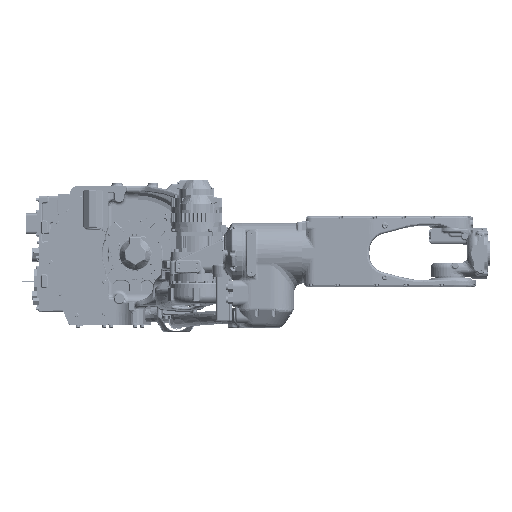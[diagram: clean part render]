
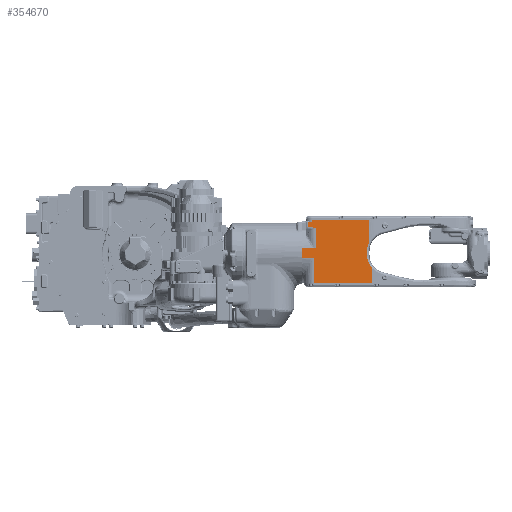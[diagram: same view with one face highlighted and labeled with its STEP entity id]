
A CAD part, top view. The second image highlights one B-rep face of the part: STEP entity #354670.
In plain terms, the highlighted planar face has unit normal (0, 0, 1).
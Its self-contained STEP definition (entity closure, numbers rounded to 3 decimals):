
#334132=CARTESIAN_POINT('',(597.458,-37.097,
1341.));
#334145=DIRECTION('',(-1.,0.,0.));
#334146=VECTOR('',#334145,143.611);
#334147=CARTESIAN_POINT('',(588.611,83.5,1341.));
#334148=LINE('',#334147,#334146);
#334149=DIRECTION('',(0.,1.,0.));
#334150=VECTOR('',#334149,58.998);
#334151=CARTESIAN_POINT('',(588.611,24.502,
1341.));
#334152=LINE('',#334151,#334150);
#334153=CARTESIAN_POINT('',(588.611,24.502,
1341.));
#334154=CARTESIAN_POINT('',(588.286,23.673,
1341.));
#334155=CARTESIAN_POINT('',(587.681,22.001,
1341.));
#334156=CARTESIAN_POINT('',(586.908,19.445,
1341.));
#334157=CARTESIAN_POINT('',(586.273,16.852,
1341.));
#334158=CARTESIAN_POINT('',(585.777,14.229,
1341.));
#334159=CARTESIAN_POINT('',(585.421,11.582,
1341.));
#334160=CARTESIAN_POINT('',(585.208,8.92,
1341.));
#334161=CARTESIAN_POINT('',(585.16,7.142,
1341.));
#334162=CARTESIAN_POINT('',(585.16,6.251,
1341.));
#334164=DIRECTION('',(0.,-1.,0.));
#334165=VECTOR('',#334164,10.512);
#334166=CARTESIAN_POINT('',(585.16,6.251,
1341.));
#334167=LINE('',#334166,#334165);
#334168=CARTESIAN_POINT('',(585.16,-4.261,
1341.));
#334169=CARTESIAN_POINT('',(585.16,-5.181,
1341.));
#334170=CARTESIAN_POINT('',(585.211,-7.017,
1341.));
#334171=CARTESIAN_POINT('',(585.439,-9.766,
1341.));
#334172=CARTESIAN_POINT('',(585.818,-12.497,1341.));
#334173=CARTESIAN_POINT('',(586.346,-15.203,1341.));
#334174=CARTESIAN_POINT('',(587.023,-17.875,1341.));
#334175=CARTESIAN_POINT('',(587.847,-20.506,1341.));
#334176=CARTESIAN_POINT('',(588.813,-23.088,1341.));
#334177=CARTESIAN_POINT('',(589.921,-25.612,1341.));
#334178=CARTESIAN_POINT('',(591.166,-28.072,1341.));
#334179=CARTESIAN_POINT('',(592.545,-30.459,1341.));
#334180=CARTESIAN_POINT('',(594.053,-32.766,
1341.));
#334181=CARTESIAN_POINT('',(595.686,-34.987,
1341.));
#334182=CARTESIAN_POINT('',(596.854,-36.404,
1341.));
#334183=CARTESIAN_POINT('',(597.458,-37.097,
1341.));
#334185=DIRECTION('',(0.,-1.,0.));
#334186=VECTOR('',#334185,36.403);
#334187=CARTESIAN_POINT('',(597.458,-37.097,
1341.));
#334188=LINE('',#334187,#334186);
#334189=DIRECTION('',(-1.,0.,0.));
#334190=VECTOR('',#334189,146.458);
#334191=CARTESIAN_POINT('',(597.458,-73.5,1341.));
#334192=LINE('',#334191,#334190);
#334193=DIRECTION('',(-1.,0.,0.));
#334194=VECTOR('',#334193,29.);
#334195=CARTESIAN_POINT('',(451.,-11.619,1341.));
#334196=LINE('',#334195,#334194);
#334197=DIRECTION('',(0.,-1.,0.));
#334198=VECTOR('',#334197,24.069);
#334199=CARTESIAN_POINT('',(422.,12.45,1341.));
#334200=LINE('',#334199,#334198);
#334201=DIRECTION('',(0.995,-0.104,0.));
#334202=VECTOR('',#334201,19.928);
#334203=CARTESIAN_POINT('',(435.18,66.62,1341.));
#334204=LINE('',#334203,#334202);
#334205=DIRECTION('',(0.,-1.,0.));
#334206=VECTOR('',#334205,11.58);
#334207=CARTESIAN_POINT('',(435.18,78.2,1341.));
#334208=LINE('',#334207,#334206);
#334209=DIRECTION('',(1.,0.,0.));
#334210=VECTOR('',#334209,9.82);
#334211=CARTESIAN_POINT('',(435.18,78.2,1341.));
#334212=LINE('',#334211,#334210);
#334601=DIRECTION('',(0.,-1.,0.));
#334602=VECTOR('',#334601,5.3);
#334603=CARTESIAN_POINT('',(445.,83.5,1341.));
#334604=LINE('',#334603,#334602);
#334695=CARTESIAN_POINT('',(435.18,66.62,1341.));
#334719=CARTESIAN_POINT('',(455.,64.543,1341.));
#334721=DIRECTION('',(0.,-1.,
0.));
#334722=VECTOR('',#334721,51.466);
#334723=CARTESIAN_POINT('',(455.,64.543,1341.));
#334724=LINE('',#334723,#334722);
#334782=CARTESIAN_POINT('',(455.,13.077,
1341.));
#334783=CARTESIAN_POINT('',(454.889,13.014,
1341.));
#334784=CARTESIAN_POINT('',(454.657,12.895,
1341.));
#334785=CARTESIAN_POINT('',(454.28,12.743,
1341.));
#334786=CARTESIAN_POINT('',(453.87,12.619,
1341.));
#334787=CARTESIAN_POINT('',(453.426,12.525,
1341.));
#334788=CARTESIAN_POINT('',(452.942,12.465,
1341.));
#334789=CARTESIAN_POINT('',(452.586,12.45,
1341.));
#334790=CARTESIAN_POINT('',(452.4,12.45,
1341.));
#334893=DIRECTION('',(-1.,0.,0.));
#334894=VECTOR('',#334893,30.4);
#334895=CARTESIAN_POINT('',(452.4,12.45,
1341.));
#334896=LINE('',#334895,#334894);
#341889=DIRECTION('',(0.,-1.,0.));
#341890=VECTOR('',#341889,61.881);
#341891=CARTESIAN_POINT('',(451.,-11.619,1341.));
#341892=LINE('',#341891,#341890);
#351756=CARTESIAN_POINT('',(422.,12.45,1341.));
#351758=VERTEX_POINT('',#351756);
#351780=CARTESIAN_POINT('',(422.,-11.619,1341.));
#351781=VERTEX_POINT('',#351780);
#351795=CARTESIAN_POINT('',(451.,-11.619,1341.));
#351796=VERTEX_POINT('',#351795);
#351801=VERTEX_POINT('',#334782);
#351802=VERTEX_POINT('',#334790);
#351943=VERTEX_POINT('',#334132);
#351945=VERTEX_POINT('',#334168);
#351948=CARTESIAN_POINT('',(585.16,6.251,
1341.));
#351949=VERTEX_POINT('',#351948);
#352030=VERTEX_POINT('',#334153);
#352089=VERTEX_POINT('',#334695);
#352177=CARTESIAN_POINT('',(588.611,83.5,1341.));
#352178=CARTESIAN_POINT('',(445.,83.5,1341.));
#352179=VERTEX_POINT('',#352177);
#352180=VERTEX_POINT('',#352178);
#352181=CARTESIAN_POINT('',(597.458,-73.5,1341.));
#352182=CARTESIAN_POINT('',(451.,-73.5,1341.));
#352183=VERTEX_POINT('',#352181);
#352184=VERTEX_POINT('',#352182);
#352248=VERTEX_POINT('',#334719);
#352260=CARTESIAN_POINT('',(435.18,78.2,1341.));
#352261=CARTESIAN_POINT('',(445.,78.2,1341.));
#352262=VERTEX_POINT('',#352260);
#352263=VERTEX_POINT('',#352261);
#354631=CARTESIAN_POINT('',(595.603,-84.2,1341.));
#354632=DIRECTION('',(0.,0.,1.));
#354633=DIRECTION('',(-1.,0.,0.));
#354634=AXIS2_PLACEMENT_3D('',#354631,#354632,#354633);
#354635=PLANE('',#354634);
#354637=ORIENTED_EDGE('',*,*,#354636,.F.);
#354639=ORIENTED_EDGE('',*,*,#354638,.F.);
#354641=ORIENTED_EDGE('',*,*,#354640,.T.);
#354643=ORIENTED_EDGE('',*,*,#354642,.T.);
#354645=ORIENTED_EDGE('',*,*,#354644,.T.);
#354646=ORIENTED_EDGE('',*,*,#354623,.T.);
#354647=ORIENTED_EDGE('',*,*,#354497,.T.);
#354649=ORIENTED_EDGE('',*,*,#354648,.F.);
#354651=ORIENTED_EDGE('',*,*,#354650,.T.);
#354653=ORIENTED_EDGE('',*,*,#354652,.F.);
#354655=ORIENTED_EDGE('',*,*,#354654,.F.);
#354657=ORIENTED_EDGE('',*,*,#354656,.F.);
#354659=ORIENTED_EDGE('',*,*,#354658,.F.);
#354661=ORIENTED_EDGE('',*,*,#354660,.F.);
#354663=ORIENTED_EDGE('',*,*,#354662,.F.);
#354665=ORIENTED_EDGE('',*,*,#354664,.T.);
#354667=ORIENTED_EDGE('',*,*,#354666,.F.);
#354668=EDGE_LOOP('',(#354637,#354639,#354641,#354643,#354645,#354646,#354647,
#354649,#354651,#354653,#354655,#354657,#354659,#354661,#354663,#354665,
#354667));
#354669=FACE_OUTER_BOUND('',#354668,.F.);
#354670=ADVANCED_FACE('',(#354669),#354635,.T.);
#334163=B_SPLINE_CURVE_WITH_KNOTS('',3,(#334153,#334154,#334155,#334156,#334157,
#334158,#334159,#334160,#334161,#334162),.UNSPECIFIED.,.F.,.F.,(4,1,1,1,1,1,1,
4),(0.,0.143,0.286,0.429,
0.571,0.714,0.857,1.),.UNSPECIFIED.);
#334184=B_SPLINE_CURVE_WITH_KNOTS('',3,(#334168,#334169,#334170,#334171,#334172,
#334173,#334174,#334175,#334176,#334177,#334178,#334179,#334180,#334181,#334182,
#334183),.UNSPECIFIED.,.F.,.F.,(4,1,1,1,1,1,1,1,1,1,1,1,1,4),(0.,
0.077,0.154,0.231,0.308,
0.385,0.462,0.538,0.615,
0.692,0.769,0.846,0.923,1.),
.UNSPECIFIED.);
#334791=B_SPLINE_CURVE_WITH_KNOTS('',3,(#334782,#334783,#334784,#334785,#334786,
#334787,#334788,#334789,#334790),.UNSPECIFIED.,.F.,.F.,(4,1,1,1,1,1,4),(0.,
0.167,0.333,0.5,0.667,0.833,
1.),.UNSPECIFIED.);
#354497=EDGE_CURVE('',#352183,#352184,#334192,.T.);
#354623=EDGE_CURVE('',#351943,#352183,#334188,.T.);
#354636=EDGE_CURVE('',#352179,#352180,#334148,.T.);
#354638=EDGE_CURVE('',#352030,#352179,#334152,.T.);
#354640=EDGE_CURVE('',#352030,#351949,#334163,.T.);
#354642=EDGE_CURVE('',#351949,#351945,#334167,.T.);
#354644=EDGE_CURVE('',#351945,#351943,#334184,.T.);
#354648=EDGE_CURVE('',#351796,#352184,#341892,.T.);
#354650=EDGE_CURVE('',#351796,#351781,#334196,.T.);
#354652=EDGE_CURVE('',#351758,#351781,#334200,.T.);
#354654=EDGE_CURVE('',#351802,#351758,#334896,.T.);
#354656=EDGE_CURVE('',#351801,#351802,#334791,.T.);
#354658=EDGE_CURVE('',#352248,#351801,#334724,.T.);
#354660=EDGE_CURVE('',#352089,#352248,#334204,.T.);
#354662=EDGE_CURVE('',#352262,#352089,#334208,.T.);
#354664=EDGE_CURVE('',#352262,#352263,#334212,.T.);
#354666=EDGE_CURVE('',#352180,#352263,#334604,.T.);
